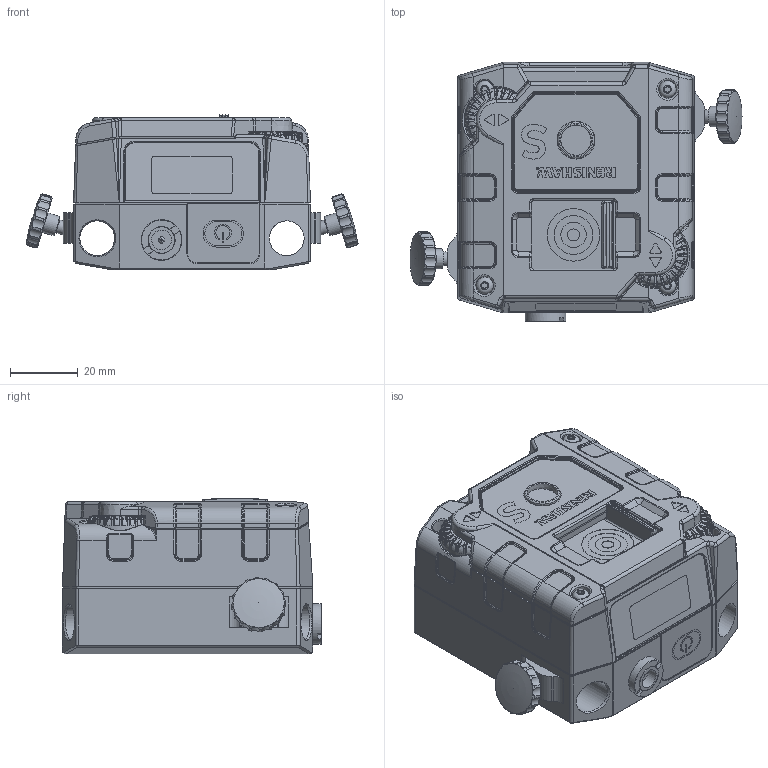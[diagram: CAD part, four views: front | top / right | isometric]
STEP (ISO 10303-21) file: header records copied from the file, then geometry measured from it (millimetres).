
FILE_DESCRIPTION(/* description */ ('CAx-IF Rec.Pracs.---Representation and Presentation of Product Manufacturing Information (PMI)---4.0---2014-10-13','CAx-IF Rec.Pracs.---3D Tessellated Geometry---0.4---2014-09-14','2;1'),/* implementation_level */ '2;1');
FILE_NAME(/* name */ 'M-9971-0202-01-B_XK20 S UNIT _altrep_M-9971-0202-01-B-alt1_',/* time_stamp */ '2025-09-02T08:24:15+01:00',/* author */ (''),/* organization */ (''),/* preprocessor_version */ 'ST-DEVELOPER v20',/* originating_system */ 'SIEMENS PLM Software NX2312.8103',/* authorisation */ $);
FILE_SCHEMA (('AP242_MANAGED_MODEL_BASED_3D_ENGINEERING_MIM_LF { 1 0 10303 442 3 1 4 }'));
Products named in the file (1): M-9971-0202-01-B_XK20 S UNIT _altrep_M-9971-0202-01-B-alt1_
Bounding box: 98.11 x 76.55 x 45.95 mm (x, y, z)
Volume: 200557.2 mm3; surface area: 30491.9 mm2
Topology: 1 solids, 1 shells, 2260 faces, 5810 edges, 3468 vertices
Faces by surface type: cylinder 726, bspline 615, plane 606, torus 182, cone 121, sphere 10
Full cylindrical faces by diameter (mm): 3.5 x1, 3.8 x6, 4 x2, 5 x4, 5.842 x1, 6 x2, 7.5 x1, 7.8 x1, 10.3 x2, 11.2 x1, 11.5 x1, 12 x1, 15.5 x1
Entity records: 96691 total; most frequent: CARTESIAN_POINT 31842, ORIENTED_EDGE 11326, DIRECTION 8442, EDGE_CURVE 5663, VERTEX_POINT 3469, AXIS2_PLACEMENT_3D 3243, FACE_BOUND 2328, EDGE_LOOP 2327
